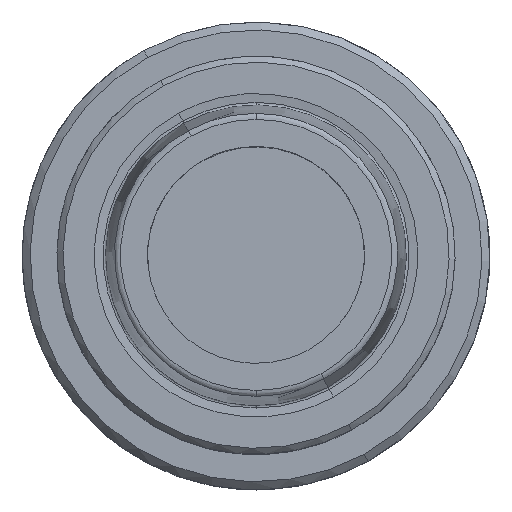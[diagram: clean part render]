
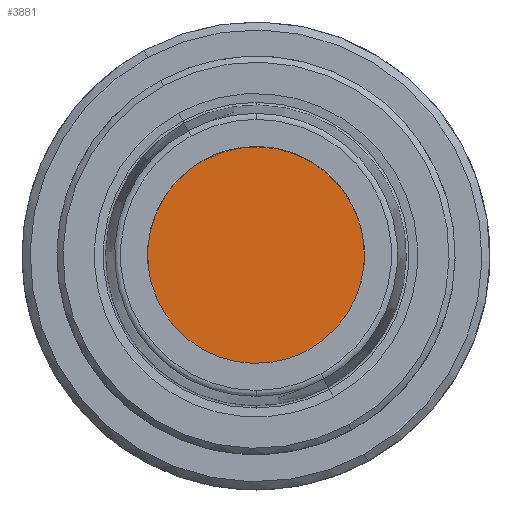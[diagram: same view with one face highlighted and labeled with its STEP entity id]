
A CAD part, top view. The second image highlights one B-rep face of the part: STEP entity #3881.
In plain terms, the highlighted planar face has unit normal (0, 0, 1).
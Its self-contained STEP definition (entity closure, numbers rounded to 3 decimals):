
#3861=AXIS2_PLACEMENT_3D('Circle Axis2P3D',#3859,#3860,$) ;
#3875=AXIS2_PLACEMENT_3D('Plane Axis2P3D',#3872,#3873,#3874) ;
#3819=CARTESIAN_POINT('Vertex',(5.226,-9.566,-8.)) ;
#3823=CARTESIAN_POINT('Control Point',(5.226,-9.566,-8.)) ;
#3824=CARTESIAN_POINT('Control Point',(3.723,-10.387,-8.)) ;
#3825=CARTESIAN_POINT('Control Point',(2.059,-10.912,-8.)) ;
#3826=CARTESIAN_POINT('Control Point',(0.312,-11.101,-8.)) ;
#3827=CARTESIAN_POINT('Control Point',(-3.163,-10.782,-8.)) ;
#3828=CARTESIAN_POINT('Control Point',(-6.26,-9.172,-8.)) ;
#3829=CARTESIAN_POINT('Control Point',(-7.629,-8.07,-8.)) ;
#3830=CARTESIAN_POINT('Control Point',(-9.861,-5.387,-8.)) ;
#3831=CARTESIAN_POINT('Control Point',(-10.912,-2.059,-8.)) ;
#3832=CARTESIAN_POINT('Control Point',(-11.101,-0.312,-8.)) ;
#3833=CARTESIAN_POINT('Control Point',(-10.782,3.163,-8.)) ;
#3834=CARTESIAN_POINT('Control Point',(-9.172,6.26,-8.)) ;
#3835=CARTESIAN_POINT('Control Point',(-8.07,7.629,-8.)) ;
#3836=CARTESIAN_POINT('Control Point',(-6.728,8.745,-8.)) ;
#3837=CARTESIAN_POINT('Control Point',(-5.226,9.566,-8.)) ;
#3838=CARTESIAN_POINT('Vertex',(-5.226,9.566,-8.)) ;
#3859=CARTESIAN_POINT('Axis2P3D Location',(0.,0.,-8.)) ;
#3872=CARTESIAN_POINT('Axis2P3D Location',(0.,9.9,-8.)) ;
#3860=DIRECTION('Axis2P3D Direction',(0.,0.,1.)) ;
#3873=DIRECTION('Axis2P3D Direction',(0.,0.,-1.)) ;
#3874=DIRECTION('Axis2P3D XDirection',(1.,0.,0.)) ;
#3878=ORIENTED_EDGE('',*,*,#3863,.T.) ;
#3879=ORIENTED_EDGE('',*,*,#3840,.T.) ;
#3881=ADVANCED_FACE('NOCUT',(#3880),#3876,.F.) ;
#3822=B_SPLINE_CURVE_WITH_KNOTS('',5,(#3823,#3824,#3825,#3826,#3827,#3828,#3829,#3830,#3831,#3832,#3833,#3834,#3835,#3836,#3837),.UNSPECIFIED.,.F.,.U.,(6,3,3,3,6),(-17.122,-8.561,0.,8.561,17.122),.UNSPECIFIED.) ;
#3862=CIRCLE('generated circle',#3861,10.9) ;
#3840=EDGE_CURVE('',#3839,#3820,#3822,.F.) ;
#3863=EDGE_CURVE('',#3820,#3839,#3862,.T.) ;
#3877=EDGE_LOOP('',(#3878,#3879)) ;
#3880=FACE_OUTER_BOUND('',#3877,.T.) ;
#3876=PLANE('',#3875) ;
#3820=VERTEX_POINT('',#3819) ;
#3839=VERTEX_POINT('',#3838) ;
